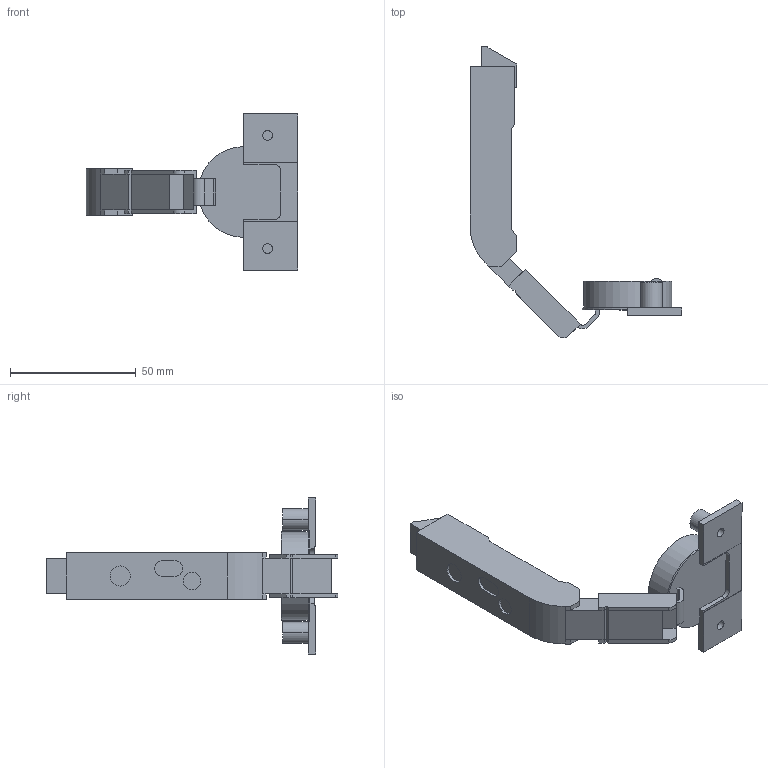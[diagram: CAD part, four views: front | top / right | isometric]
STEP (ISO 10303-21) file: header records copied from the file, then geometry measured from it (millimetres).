
FILE_DESCRIPTION (( 'STEP AP214' ), '1' );
FILE_NAME ('Scharnier T Click-on PCC, geschl-B_BB, Dübel.step', '2018-10-02T14:36:41', ( '' ), ( '' ), 'SwSTEP 2.0', 'SolidWorks 2017', '' );
FILE_SCHEMA (( 'AUTOMOTIVE_DESIGN' ));
Length unit declared in the file: millimetre
Products named in the file (1): Scharnier T Click-on PCC, geschl-B_BB, Dübel
Bounding box: 84.05 x 115.9 x 62 mm (x, y, z)
Volume: 45147 mm3; surface area: 14935.4 mm2
Topology: 1 solids, 1 shells, 108 faces, 272 edges, 176 vertices
Faces by surface type: plane 80, cylinder 28
Entity records: 3238 total; most frequent: CARTESIAN_POINT 557, DIRECTION 546, ORIENTED_EDGE 544, EDGE_CURVE 272, VECTOR 216, LINE 216, VERTEX_POINT 176, AXIS2_PLACEMENT_3D 165
